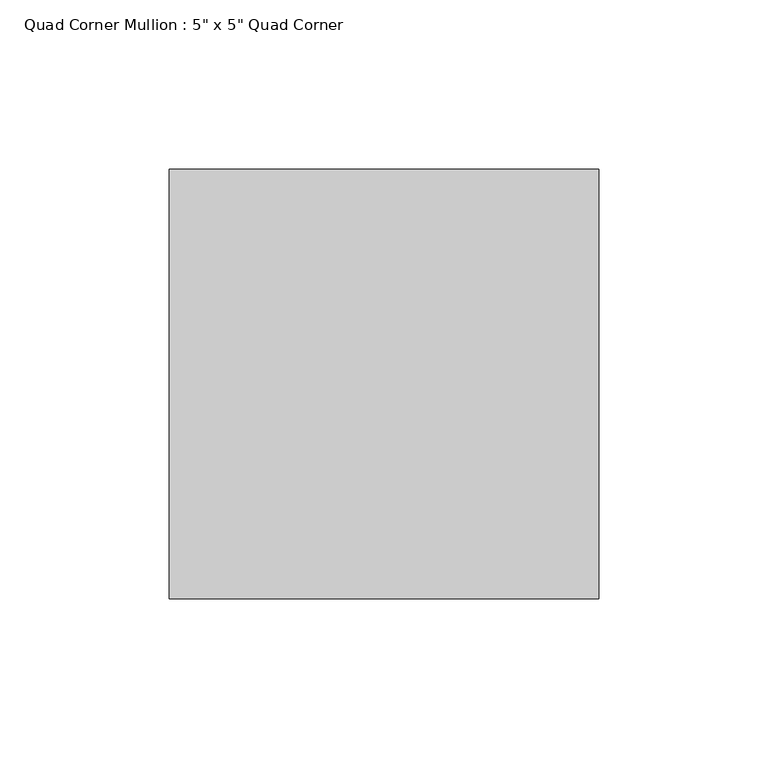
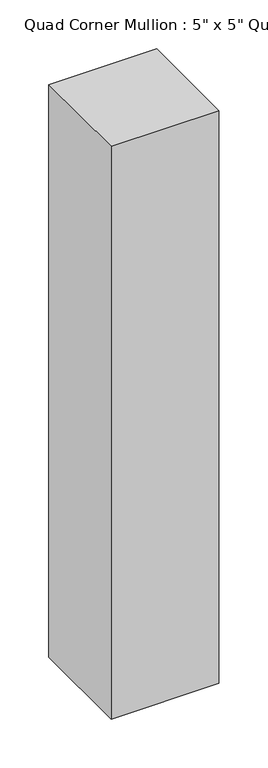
"""IFC4 building model written with IfcOpenShell, lengths in millimetres: member geometry."""

from ifc_helpers import new_model, si_unit, frame, origin, place, context, project, spatial, polyline, outline, extrude, source, transform, mapped, element, save


def member_2957e7b6(model_context):
    return source(origin(), model_context, "Body", "SweptSolid", [
        extrude(outline(polyline([(63.5, 63.5), (63.5, -63.5), (-63.5, -63.5), (-63.5, 63.5), (63.5, 63.5)])), frame((0.0, 0.0, -714.375), z_axis=(0.0, 0.0, 1.0), x_axis=(1.0, 0.0, 0.0)), (0.0, 0.0, 1.0), 714.375),
    ])


if __name__ == "__main__":
    model = new_model("IFC4")
    model_context = context("Model", 3, world=origin())
    ifc_project = project(units=[si_unit("LENGTHUNIT", "METRE", prefix="MILLI")], contexts=[model_context])
    site = spatial("IfcSite", under=ifc_project)
    building = spatial("IfcBuilding", under=site)
    placement = place(None, origin())
    member_shape = member_2957e7b6(model_context)
    element("IfcMember", 1, ObjectType="Quad Corner Mullion : 5\" x 5\" Quad Corner", at=placement, inside=building, context=model_context, shape_type="MappedRepresentation", body=[
        mapped(member_shape, transform((0.0, 0.0, 0.0), x_axis=(1.0, 0.0, 0.0), y_axis=(0.0, 1.0, 0.0), z_axis=(0.0, 0.0, 1.0))),
    ])
    save(model, "model.ifc")
